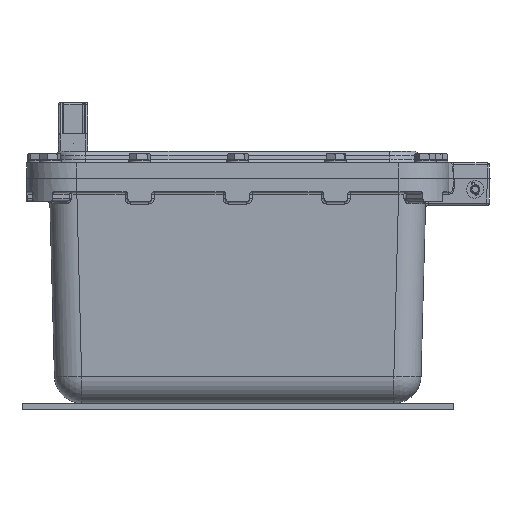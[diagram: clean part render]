
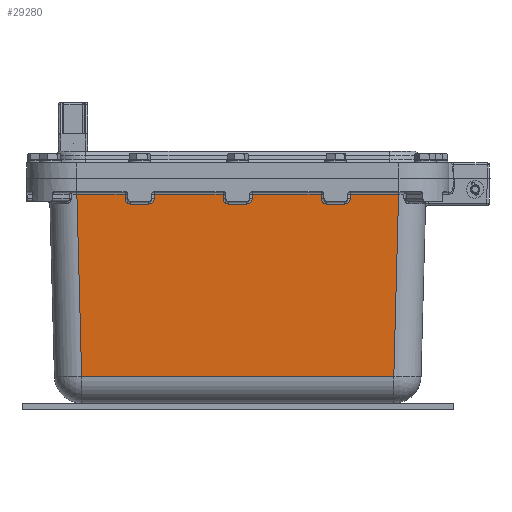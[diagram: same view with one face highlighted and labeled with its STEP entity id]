
A CAD part, front view. The second image highlights one B-rep face of the part: STEP entity #29280.
In plain terms, the highlighted planar face has unit normal (0, -1, -0.026).
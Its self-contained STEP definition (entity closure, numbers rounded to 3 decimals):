
#17020=CARTESIAN_POINT('',(103.435,-262.922,-14.435));
#17021=VERTEX_POINT('',#17020);
#17134=CARTESIAN_POINT('',(98.329,-262.686,-23.435));
#17135=VERTEX_POINT('',#17134);
#17136=CARTESIAN_POINT('',(103.327,-262.814,-18.565));
#17137=VERTEX_POINT('',#17136);
#17138=CARTESIAN_POINT('',(98.329,-262.817,-18.435));
#17139=DIRECTION('',(0.0,-1.,-0.026));
#17140=DIRECTION('',(0.,0.026,-1.));
#17141=AXIS2_PLACEMENT_3D('',#17138,#17139,#17140);
#17142=ELLIPSE('',#17141,5.002,5.);
#17143=EDGE_CURVE('',#17135,#17137,#17142,.T.);
#17179=CARTESIAN_POINT('',(103.327,-262.814,-18.565));
#17180=DIRECTION('',(0.026,-0.026,0.999));
#17181=VECTOR('',#17180,4.134);
#17182=LINE('',#17179,#17181);
#17183=EDGE_CURVE('',#17137,#17021,#17182,.T.);
#17283=CARTESIAN_POINT('',(76.673,-262.814,-18.565));
#17284=VERTEX_POINT('',#17283);
#17292=CARTESIAN_POINT('',(81.671,-262.686,-23.435));
#17293=VERTEX_POINT('',#17292);
#17294=CARTESIAN_POINT('',(81.671,-262.817,-18.435));
#17295=DIRECTION('',(0.0,-1.,-0.026));
#17296=DIRECTION('',(0.,0.026,-1.));
#17297=AXIS2_PLACEMENT_3D('',#17294,#17295,#17296);
#17298=ELLIPSE('',#17297,5.002,5.0);
#17299=EDGE_CURVE('',#17284,#17293,#17298,.T.);
#17361=CARTESIAN_POINT('',(76.565,-262.922,-14.435));
#17362=VERTEX_POINT('',#17361);
#17454=CARTESIAN_POINT('',(13.435,-262.922,-14.435));
#17455=VERTEX_POINT('',#17454);
#17575=CARTESIAN_POINT('',(8.329,-262.686,-23.435));
#17576=VERTEX_POINT('',#17575);
#17577=CARTESIAN_POINT('',(13.327,-262.814,-18.565));
#17578=VERTEX_POINT('',#17577);
#17579=CARTESIAN_POINT('',(8.329,-262.817,-18.435));
#17580=DIRECTION('',(0.0,-1.,-0.026));
#17581=DIRECTION('',(0.,0.026,-1.));
#17582=AXIS2_PLACEMENT_3D('',#17579,#17580,#17581);
#17583=ELLIPSE('',#17582,5.002,5.);
#17584=EDGE_CURVE('',#17576,#17578,#17583,.T.);
#17620=CARTESIAN_POINT('',(13.327,-262.814,-18.565));
#17621=DIRECTION('',(0.026,-0.026,0.999));
#17622=VECTOR('',#17621,4.134);
#17623=LINE('',#17620,#17622);
#17624=EDGE_CURVE('',#17578,#17455,#17623,.T.);
#17724=CARTESIAN_POINT('',(-13.327,-262.814,-18.565));
#17725=VERTEX_POINT('',#17724);
#17733=CARTESIAN_POINT('',(-8.329,-262.686,-23.435));
#17734=VERTEX_POINT('',#17733);
#17735=CARTESIAN_POINT('',(-8.329,-262.817,-18.435));
#17736=DIRECTION('',(0.,-1.,-0.026));
#17737=DIRECTION('',(0.,0.026,-1.));
#17738=AXIS2_PLACEMENT_3D('',#17735,#17736,#17737);
#17739=ELLIPSE('',#17738,5.002,5.0);
#17740=EDGE_CURVE('',#17725,#17734,#17739,.T.);
#17802=CARTESIAN_POINT('',(-13.435,-262.922,-14.435));
#17803=VERTEX_POINT('',#17802);
#17895=CARTESIAN_POINT('',(-76.565,-262.922,-14.435));
#17896=VERTEX_POINT('',#17895);
#18016=CARTESIAN_POINT('',(-81.671,-262.686,-23.435));
#18017=VERTEX_POINT('',#18016);
#18018=CARTESIAN_POINT('',(-76.673,-262.814,-18.565));
#18019=VERTEX_POINT('',#18018);
#18020=CARTESIAN_POINT('',(-81.671,-262.817,-18.435));
#18021=DIRECTION('',(0.,-1.,-0.026));
#18022=DIRECTION('',(0.,0.026,-1.));
#18023=AXIS2_PLACEMENT_3D('',#18020,#18021,#18022);
#18024=ELLIPSE('',#18023,5.002,5.);
#18025=EDGE_CURVE('',#18017,#18019,#18024,.T.);
#18061=CARTESIAN_POINT('',(-76.673,-262.814,-18.565));
#18062=DIRECTION('',(0.026,-0.026,0.999));
#18063=VECTOR('',#18062,4.134);
#18064=LINE('',#18061,#18063);
#18065=EDGE_CURVE('',#18019,#17896,#18064,.T.);
#18165=CARTESIAN_POINT('',(-103.327,-262.814,-18.565));
#18166=VERTEX_POINT('',#18165);
#18174=CARTESIAN_POINT('',(-98.329,-262.686,-23.435));
#18175=VERTEX_POINT('',#18174);
#18176=CARTESIAN_POINT('',(-98.329,-262.817,-18.435));
#18177=DIRECTION('',(0.0,-1.,-0.026));
#18178=DIRECTION('',(0.,0.026,-1.));
#18179=AXIS2_PLACEMENT_3D('',#18176,#18177,#18178);
#18180=ELLIPSE('',#18179,5.002,5.0);
#18181=EDGE_CURVE('',#18166,#18175,#18180,.T.);
#18243=CARTESIAN_POINT('',(-103.435,-262.922,-14.435));
#18244=VERTEX_POINT('',#18243);
#18269=CARTESIAN_POINT('',(-147.631,-262.922,-14.435));
#18270=VERTEX_POINT('',#18269);
#18278=CARTESIAN_POINT('',(-147.631,-262.922,-14.435));
#18279=DIRECTION('',(1.0,0.0,0.0));
#18280=VECTOR('',#18279,44.195);
#18281=LINE('',#18278,#18280);
#18282=EDGE_CURVE('',#18270,#18244,#18281,.T.);
#18341=CARTESIAN_POINT('',(-103.435,-262.922,-14.435));
#18342=DIRECTION('',(0.026,0.026,-0.999));
#18343=VECTOR('',#18342,4.134);
#18344=LINE('',#18341,#18343);
#18345=EDGE_CURVE('',#18244,#18166,#18344,.T.);
#18561=CARTESIAN_POINT('',(-98.329,-262.686,-23.435));
#18562=DIRECTION('',(1.0,0.0,0.0));
#18563=VECTOR('',#18562,16.658);
#18564=LINE('',#18561,#18563);
#18565=EDGE_CURVE('',#18175,#18017,#18564,.T.);
#18627=CARTESIAN_POINT('',(-76.565,-262.922,-14.435));
#18628=DIRECTION('',(1.0,0.0,0.0));
#18629=VECTOR('',#18628,63.129);
#18630=LINE('',#18627,#18629);
#18631=EDGE_CURVE('',#17896,#17803,#18630,.T.);
#18671=CARTESIAN_POINT('',(-13.435,-262.922,-14.435));
#18672=DIRECTION('',(0.026,0.026,-0.999));
#18673=VECTOR('',#18672,4.134);
#18674=LINE('',#18671,#18673);
#18675=EDGE_CURVE('',#17803,#17725,#18674,.T.);
#18732=CARTESIAN_POINT('',(-8.329,-262.686,-23.435));
#18733=DIRECTION('',(1.0,0.0,0.0));
#18734=VECTOR('',#18733,16.658);
#18735=LINE('',#18732,#18734);
#18736=EDGE_CURVE('',#17734,#17576,#18735,.T.);
#18798=CARTESIAN_POINT('',(13.435,-262.922,-14.435));
#18799=DIRECTION('',(1.0,0.0,0.0));
#18800=VECTOR('',#18799,63.129);
#18801=LINE('',#18798,#18800);
#18802=EDGE_CURVE('',#17455,#17362,#18801,.T.);
#18842=CARTESIAN_POINT('',(76.565,-262.922,-14.435));
#18843=DIRECTION('',(0.026,0.026,-0.999));
#18844=VECTOR('',#18843,4.134);
#18845=LINE('',#18842,#18844);
#18846=EDGE_CURVE('',#17362,#17284,#18845,.T.);
#18903=CARTESIAN_POINT('',(81.671,-262.686,-23.435));
#18904=DIRECTION('',(1.0,0.0,0.0));
#18905=VECTOR('',#18904,16.658);
#18906=LINE('',#18903,#18905);
#18907=EDGE_CURVE('',#17293,#17135,#18906,.T.);
#18981=CARTESIAN_POINT('',(147.631,-262.922,-14.435));
#18982=VERTEX_POINT('',#18981);
#19019=CARTESIAN_POINT('',(103.435,-262.922,-14.435));
#19020=DIRECTION('',(1.0,0.0,0.0));
#19021=VECTOR('',#19020,44.195);
#19022=LINE('',#19019,#19021);
#19023=EDGE_CURVE('',#17021,#18982,#19022,.T.);
#24920=CARTESIAN_POINT('',(143.247,-258.538,-181.854));
#24921=VERTEX_POINT('',#24920);
#24922=CARTESIAN_POINT('',(147.631,-262.922,-14.435));
#24923=DIRECTION('',(-0.026,0.026,-0.999));
#24924=VECTOR('',#24923,167.535);
#24925=LINE('',#24922,#24924);
#24926=EDGE_CURVE('',#18982,#24921,#24925,.T.);
#29239=CARTESIAN_POINT('',(-173.,-263.3,0.0));
#29240=DIRECTION('',(0.0,-1.,-0.026));
#29241=DIRECTION('',(-1.0,0.0,0.0));
#29242=AXIS2_PLACEMENT_3D('',#29239,#29240,#29241);
#29243=PLANE('',#29242);
#29244=ORIENTED_EDGE('',*,*,#18282,.F.);
#29245=CARTESIAN_POINT('',(-143.247,-258.538,-181.854));
#29246=VERTEX_POINT('',#29245);
#29247=CARTESIAN_POINT('',(-143.247,-258.538,-181.854));
#29248=DIRECTION('',(-0.026,-0.026,0.999));
#29249=VECTOR('',#29248,167.535);
#29250=LINE('',#29247,#29249);
#29251=EDGE_CURVE('',#29246,#18270,#29250,.T.);
#29252=ORIENTED_EDGE('',*,*,#29251,.F.);
#29253=CARTESIAN_POINT('',(143.247,-258.538,-181.854));
#29254=DIRECTION('',(-1.0,0.0,0.0));
#29255=VECTOR('',#29254,286.493);
#29256=LINE('',#29253,#29255);
#29257=EDGE_CURVE('',#24921,#29246,#29256,.T.);
#29258=ORIENTED_EDGE('',*,*,#29257,.F.);
#29259=ORIENTED_EDGE('',*,*,#24926,.F.);
#29260=ORIENTED_EDGE('',*,*,#19023,.F.);
#29261=ORIENTED_EDGE('',*,*,#17183,.F.);
#29262=ORIENTED_EDGE('',*,*,#17143,.F.);
#29263=ORIENTED_EDGE('',*,*,#18907,.F.);
#29264=ORIENTED_EDGE('',*,*,#17299,.F.);
#29265=ORIENTED_EDGE('',*,*,#18846,.F.);
#29266=ORIENTED_EDGE('',*,*,#18802,.F.);
#29267=ORIENTED_EDGE('',*,*,#17624,.F.);
#29268=ORIENTED_EDGE('',*,*,#17584,.F.);
#29269=ORIENTED_EDGE('',*,*,#18736,.F.);
#29270=ORIENTED_EDGE('',*,*,#17740,.F.);
#29271=ORIENTED_EDGE('',*,*,#18675,.F.);
#29272=ORIENTED_EDGE('',*,*,#18631,.F.);
#29273=ORIENTED_EDGE('',*,*,#18065,.F.);
#29274=ORIENTED_EDGE('',*,*,#18025,.F.);
#29275=ORIENTED_EDGE('',*,*,#18565,.F.);
#29276=ORIENTED_EDGE('',*,*,#18181,.F.);
#29277=ORIENTED_EDGE('',*,*,#18345,.F.);
#29278=EDGE_LOOP('',(#29244,#29252,#29258,#29259,#29260,#29261,#29262,#29263,#29264,#29265,#29266,#29267,#29268,#29269,#29270,#29271,#29272,#29273,#29274,#29275,#29276,#29277));
#29279=FACE_OUTER_BOUND('',#29278,.T.);
#29280=ADVANCED_FACE('',(#29279),#29243,.T.);
